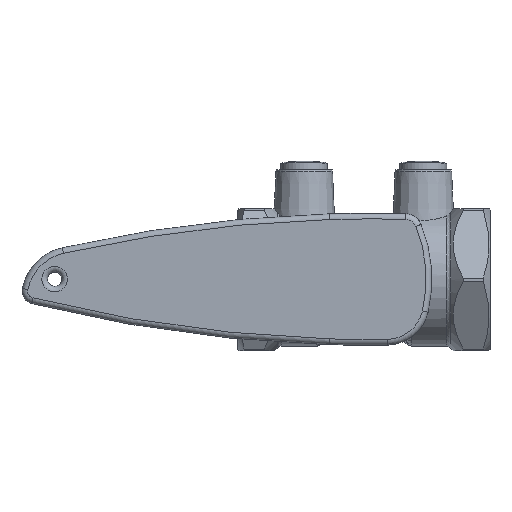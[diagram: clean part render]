
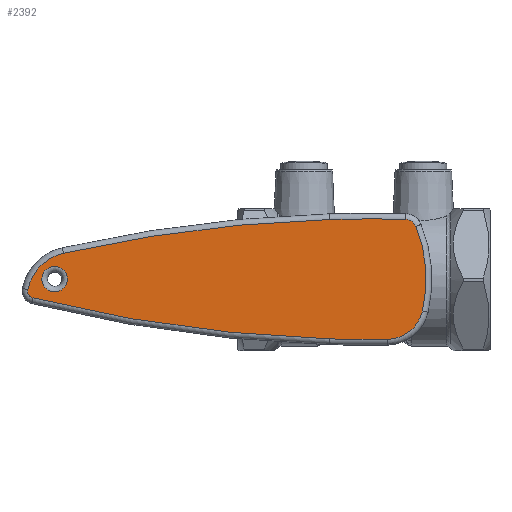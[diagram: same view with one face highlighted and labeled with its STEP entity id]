
A CAD part, top view. The second image highlights one B-rep face of the part: STEP entity #2392.
In plain terms, the highlighted planar face has unit normal (0, 0, 1).
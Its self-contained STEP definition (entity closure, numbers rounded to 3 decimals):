
#121=FACE_BOUND('',#419,.T.);
#148=PLANE('',#2702);
#276=FACE_OUTER_BOUND('',#418,.T.);
#418=EDGE_LOOP('',(#2059,#2060,#2061,#2062,#2063,#2064,#2065,#2066,#2067));
#419=EDGE_LOOP('',(#2068));
#603=CIRCLE('',#2699,4.5);
#606=CIRCLE('',#2703,495.909);
#607=CIRCLE('',#2704,16.56);
#608=CIRCLE('',#2705,2.501);
#609=CIRCLE('',#2706,495.863);
#610=CIRCLE('',#2707,495.754);
#611=CIRCLE('',#2708,12.99);
#612=CIRCLE('',#2709,48.994);
#613=CIRCLE('',#2710,3.998);
#614=CIRCLE('',#2711,495.754);
#1068=VERTEX_POINT('',#4449);
#1070=VERTEX_POINT('',#4455);
#1071=VERTEX_POINT('',#4456);
#1072=VERTEX_POINT('',#4458);
#1073=VERTEX_POINT('',#4460);
#1074=VERTEX_POINT('',#4462);
#1075=VERTEX_POINT('',#4464);
#1076=VERTEX_POINT('',#4466);
#1077=VERTEX_POINT('',#4468);
#1078=VERTEX_POINT('',#4470);
#1410=EDGE_CURVE('',#1068,#1068,#603,.T.);
#1413=EDGE_CURVE('',#1070,#1071,#606,.T.);
#1414=EDGE_CURVE('',#1072,#1070,#607,.T.);
#1415=EDGE_CURVE('',#1073,#1072,#608,.T.);
#1416=EDGE_CURVE('',#1074,#1073,#609,.T.);
#1417=EDGE_CURVE('',#1075,#1074,#610,.T.);
#1418=EDGE_CURVE('',#1076,#1075,#611,.T.);
#1419=EDGE_CURVE('',#1077,#1076,#612,.T.);
#1420=EDGE_CURVE('',#1078,#1077,#613,.T.);
#1421=EDGE_CURVE('',#1071,#1078,#614,.T.);
#2059=ORIENTED_EDGE('',*,*,#1413,.F.);
#2060=ORIENTED_EDGE('',*,*,#1414,.F.);
#2061=ORIENTED_EDGE('',*,*,#1415,.F.);
#2062=ORIENTED_EDGE('',*,*,#1416,.F.);
#2063=ORIENTED_EDGE('',*,*,#1417,.F.);
#2064=ORIENTED_EDGE('',*,*,#1418,.F.);
#2065=ORIENTED_EDGE('',*,*,#1419,.F.);
#2066=ORIENTED_EDGE('',*,*,#1420,.F.);
#2067=ORIENTED_EDGE('',*,*,#1421,.F.);
#2068=ORIENTED_EDGE('',*,*,#1410,.F.);
#2392=ADVANCED_FACE('',(#276,#121),#148,.T.);
#2699=AXIS2_PLACEMENT_3D('',#4450,#3337,#3338);
#2702=AXIS2_PLACEMENT_3D('',#4454,#3343,#3344);
#2703=AXIS2_PLACEMENT_3D('',#4457,#3345,#3346);
#2704=AXIS2_PLACEMENT_3D('',#4459,#3347,#3348);
#2705=AXIS2_PLACEMENT_3D('',#4461,#3349,#3350);
#2706=AXIS2_PLACEMENT_3D('',#4463,#3351,#3352);
#2707=AXIS2_PLACEMENT_3D('',#4465,#3353,#3354);
#2708=AXIS2_PLACEMENT_3D('',#4467,#3355,#3356);
#2709=AXIS2_PLACEMENT_3D('',#4469,#3357,#3358);
#2710=AXIS2_PLACEMENT_3D('',#4471,#3359,#3360);
#2711=AXIS2_PLACEMENT_3D('',#4472,#3361,#3362);
#3337=DIRECTION('center_axis',(0.,0.,1.));
#3338=DIRECTION('ref_axis',(-1.,0.,0.));
#3343=DIRECTION('center_axis',(0.,0.,1.));
#3344=DIRECTION('ref_axis',(1.,0.,0.));
#3345=DIRECTION('center_axis',(0.,0.,-1.));
#3346=DIRECTION('ref_axis',(-0.126,0.992,0.));
#3347=DIRECTION('center_axis',(0.,0.,-1.));
#3348=DIRECTION('ref_axis',(-0.714,0.7,0.));
#3349=DIRECTION('center_axis',(0.,0.,-1.));
#3350=DIRECTION('ref_axis',(-0.846,-0.533,0.));
#3351=DIRECTION('center_axis',(0.,0.,-1.));
#3352=DIRECTION('ref_axis',(-0.137,-0.991,0.));
#3353=DIRECTION('center_axis',(0.,0.,-1.));
#3354=DIRECTION('ref_axis',(-0.008,-1.,0.));
#3355=DIRECTION('center_axis',(0.,0.,-1.));
#3356=DIRECTION('ref_axis',(0.626,-0.78,0.));
#3357=DIRECTION('center_axis',(0.,0.,-1.));
#3358=DIRECTION('ref_axis',(0.997,0.08,0.));
#3359=DIRECTION('center_axis',(0.,0.,-1.));
#3360=DIRECTION('ref_axis',(0.567,0.823,0.));
#3361=DIRECTION('center_axis',(0.,0.,-1.));
#3362=DIRECTION('ref_axis',(-0.002,1.,0.));
#4449=CARTESIAN_POINT('',(-104.5,0.,108.4));
#4450=CARTESIAN_POINT('Origin',(-109.,0.,
108.4));
#4454=CARTESIAN_POINT('Origin',(-43.62,0.026,108.4));
#4455=CARTESIAN_POINT('',(-105.873,9.151,108.4));
#4456=CARTESIAN_POINT('',(-11.945,21.044,108.4));
#4457=CARTESIAN_POINT('Origin',(3.103,-474.637,108.4));
#4458=CARTESIAN_POINT('',(-118.453,-3.675,108.4));
#4459=CARTESIAN_POINT('Origin',(-102.231,-7.004,108.4));
#4460=CARTESIAN_POINT('',(-116.606,-6.606,108.4));
#4461=CARTESIAN_POINT('Origin',(-116.003,-4.178,108.4));
#4462=CARTESIAN_POINT('',(-11.945,-21.044,108.4));
#4463=CARTESIAN_POINT('Origin',(3.102,474.591,108.4));
#4464=CARTESIAN_POINT('',(8.211,-21.207,108.4));
#4465=CARTESIAN_POINT('Origin',(2.142,474.51,108.4));
#4466=CARTESIAN_POINT('',(20.701,-11.182,108.4));
#4467=CARTESIAN_POINT('Origin',(8.054,-8.219,108.4));
#4468=CARTESIAN_POINT('',(18.323,18.607,108.4));
#4469=CARTESIAN_POINT('Origin',(-27.,0.,
108.4));
#4470=CARTESIAN_POINT('',(14.727,21.085,108.4));
#4471=CARTESIAN_POINT('Origin',(14.625,17.088,108.4));
#4472=CARTESIAN_POINT('Origin',(2.142,-474.51,108.4));
